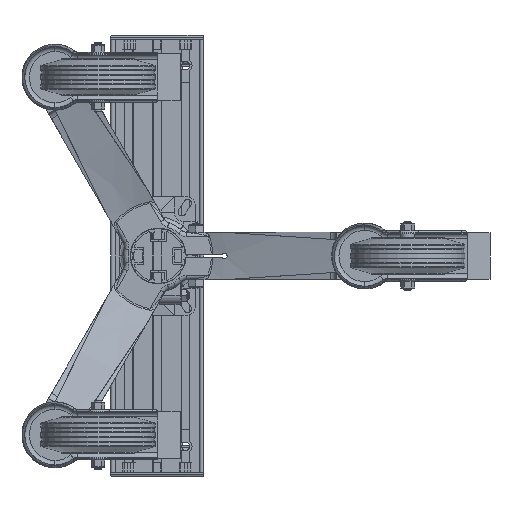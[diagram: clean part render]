
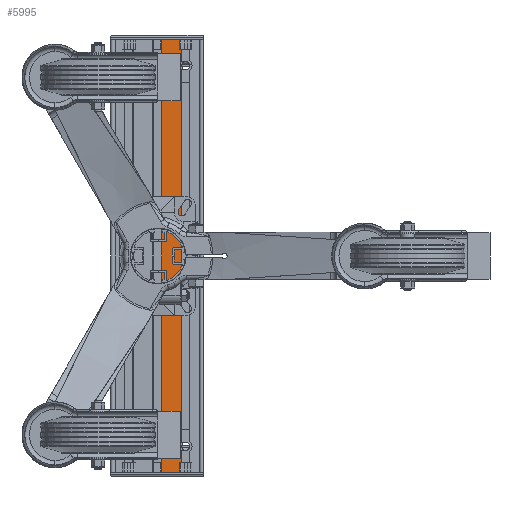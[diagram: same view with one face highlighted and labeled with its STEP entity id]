
A CAD part, front view. The second image highlights one B-rep face of the part: STEP entity #5995.
In plain terms, the highlighted planar face has unit normal (0, -1, 0).
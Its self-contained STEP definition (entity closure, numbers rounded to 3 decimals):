
#16 = DIRECTION ( 'NONE',  ( 1., 0., 0. ) ) ;
#28 = CIRCLE ( 'NONE', #29, 7. ) ;
#29 = AXIS2_PLACEMENT_3D ( 'NONE', #53, #52, #16 ) ;
#52 = DIRECTION ( 'NONE',  ( 0., -1., 0. ) ) ;
#53 = CARTESIAN_POINT ( 'NONE',  ( -394.786, 323.017, 387.021 ) ) ;
#3333 = CARTESIAN_POINT ( 'NONE',  ( -399.536, 323.017, -34.121 ) ) ;
#5797 = EDGE_CURVE ( 'NONE', #29378, #26005, #34205, .T. ) ;
#5798 = ORIENTED_EDGE ( 'NONE', *, *, #5797, .F. ) ;
#5817 = EDGE_CURVE ( 'NONE', #25343, #29378, #34531, .T. ) ;
#5818 = ORIENTED_EDGE ( 'NONE', *, *, #5817, .F. ) ;
#5962 = EDGE_CURVE ( 'NONE', #22119, #26005, #35992, .T. ) ;
#5963 = ORIENTED_EDGE ( 'NONE', *, *, #5962, .T. ) ;
#5995 = ADVANCED_FACE ( 'NONE', ( #36209 ), #36532, .F. ) ;
#6482 = ORIENTED_EDGE ( 'NONE', *, *, #16904, .T. ) ;
#6483 = EDGE_CURVE ( 'NONE', #22079, #23294, #68581, .T. ) ;
#6664 = ORIENTED_EDGE ( 'NONE', *, *, #6483, .F. ) ;
#6665 = ORIENTED_EDGE ( 'NONE', *, *, #8396, .F. ) ;
#6897 = ORIENTED_EDGE ( 'NONE', *, *, #6999, .F. ) ;
#6916 = EDGE_CURVE ( 'NONE', #23618, #24663, #28, .T. ) ;
#6917 = ORIENTED_EDGE ( 'NONE', *, *, #6916, .F. ) ;
#6999 = EDGE_CURVE ( 'NONE', #24663, #25343, #44242, .T. ) ;
#8396 = EDGE_CURVE ( 'NONE', #23294, #23618, #17753, .T. ) ;
#16904 = EDGE_CURVE ( 'NONE', #22079, #22119, #54103, .T. ) ;
#17750 = DIRECTION ( 'NONE',  ( 0., 0., -1. ) ) ;
#17751 = VECTOR ( 'NONE', #17750, 1000. ) ;
#17752 = CARTESIAN_POINT ( 'NONE',  ( -399.536, 323.017, 415.021 ) ) ;
#17753 = LINE ( 'NONE', #17752, #17751 ) ;
#22079 = VERTEX_POINT ( 'NONE', #45269 ) ;
#22119 = VERTEX_POINT ( 'NONE', #45786 ) ;
#23294 = VERTEX_POINT ( 'NONE', #50405 ) ;
#23618 = VERTEX_POINT ( 'NONE', #55302 ) ;
#24663 = VERTEX_POINT ( 'NONE', #71315 ) ;
#25343 = VERTEX_POINT ( 'NONE', #72678 ) ;
#26005 = VERTEX_POINT ( 'NONE', #76579 ) ;
#29062 = EDGE_LOOP ( 'NONE', ( #6897, #6917, #6665, #6664, #6482, #5963, #5798, #5818 ) ) ;
#29378 = VERTEX_POINT ( 'NONE', #3333 ) ;
#34200 = DIRECTION ( 'NONE',  ( 0., 0., -1. ) ) ;
#34202 = VECTOR ( 'NONE', #34200, 1000. ) ;
#34204 = CARTESIAN_POINT ( 'NONE',  ( -399.536, 323.017, 415.021 ) ) ;
#34205 = LINE ( 'NONE', #34204, #34202 ) ;
#34524 = DIRECTION ( 'NONE',  ( 1., 0., 0. ) ) ;
#34526 = DIRECTION ( 'NONE',  ( 0., -1., 0. ) ) ;
#34527 = CARTESIAN_POINT ( 'NONE',  ( -394.786, 323.017, -28.979 ) ) ;
#34529 = AXIS2_PLACEMENT_3D ( 'NONE', #34527, #34526, #34524 ) ;
#34531 = CIRCLE ( 'NONE', #34529, 7. ) ;
#35989 = DIRECTION ( 'NONE',  ( 1., 0., 0. ) ) ;
#35990 = VECTOR ( 'NONE', #35989, 1000. ) ;
#35991 = CARTESIAN_POINT ( 'NONE',  ( -399.536, 323.017, -56.979 ) ) ;
#35992 = LINE ( 'NONE', #35991, #35990 ) ;
#36209 = FACE_OUTER_BOUND ( 'NONE', #29062, .T. ) ;
#36528 = DIRECTION ( 'NONE',  ( -1., 0., 0. ) ) ;
#36529 = DIRECTION ( 'NONE',  ( 0., 1., 0. ) ) ;
#36530 = CARTESIAN_POINT ( 'NONE',  ( -399.536, 323.017, 415.021 ) ) ;
#36531 = AXIS2_PLACEMENT_3D ( 'NONE', #36530, #36529, #36528 ) ;
#36532 = PLANE ( 'NONE',  #36531 ) ;
#44222 = VECTOR ( 'NONE', #44226, 1000. ) ;
#44226 = DIRECTION ( 'NONE',  ( 0., 0., -1. ) ) ;
#44242 = LINE ( 'NONE', #44243, #44222 ) ;
#44243 = CARTESIAN_POINT ( 'NONE',  ( -399.536, 323.017, 415.021 ) ) ;
#45269 = CARTESIAN_POINT ( 'NONE',  ( -421.036, 323.017, 415.021 ) ) ;
#45786 = CARTESIAN_POINT ( 'NONE',  ( -421.036, 323.017, -56.979 ) ) ;
#50405 = CARTESIAN_POINT ( 'NONE',  ( -399.536, 323.017, 415.021 ) ) ;
#54098 = DIRECTION ( 'NONE',  ( 0., 0., -1. ) ) ;
#54099 = VECTOR ( 'NONE', #54098, 1000. ) ;
#54101 = CARTESIAN_POINT ( 'NONE',  ( -421.036, 323.017, 415.021 ) ) ;
#54103 = LINE ( 'NONE', #54101, #54099 ) ;
#55302 = CARTESIAN_POINT ( 'NONE',  ( -399.536, 323.017, 392.163 ) ) ;
#68469 = DIRECTION ( 'NONE',  ( 1., 0., 0. ) ) ;
#68470 = VECTOR ( 'NONE', #68469, 1000. ) ;
#68471 = CARTESIAN_POINT ( 'NONE',  ( -399.536, 323.017, 415.021 ) ) ;
#68581 = LINE ( 'NONE', #68471, #68470 ) ;
#71315 = CARTESIAN_POINT ( 'NONE',  ( -399.536, 323.017, 381.879 ) ) ;
#72678 = CARTESIAN_POINT ( 'NONE',  ( -399.536, 323.017, -23.837 ) ) ;
#76579 = CARTESIAN_POINT ( 'NONE',  ( -399.536, 323.017, -56.979 ) ) ;
